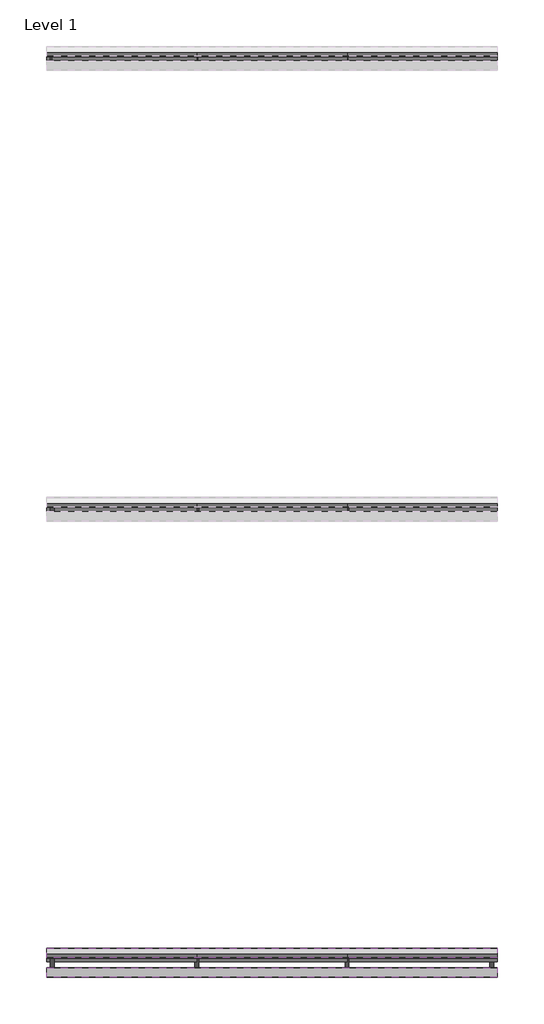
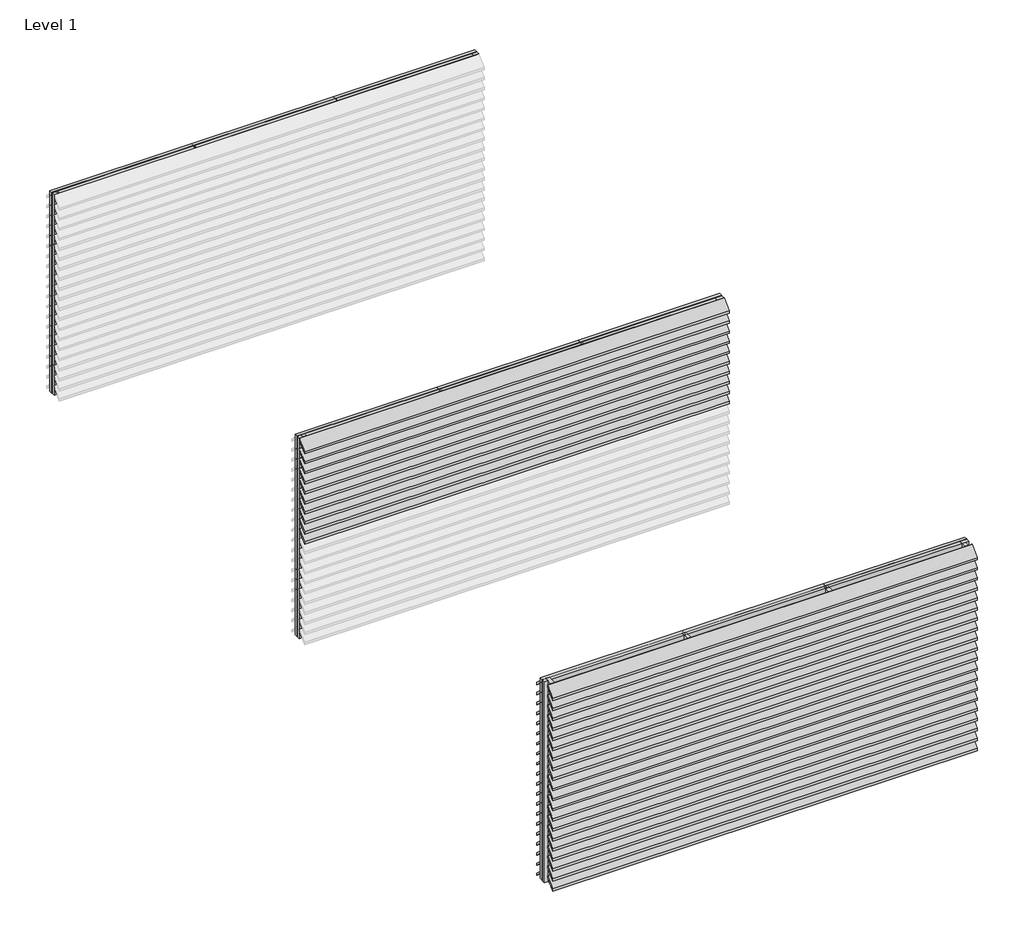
# One storey, part 1 of 2: 50 proxies, 12 members, 12 plates.
"""IFC4 building model written with IfcOpenShell, lengths in millimetres."""

from ifc_helpers import new_model, si_unit, frame, origin, origin_with_axes, place, context, project, spatial, polyline, outline, extrude, transform, mapped, element, save
from components import rectangular_mullion_81aaf6fe, rectangular_mullion_6e08dc26, rectangular_mullion_75c52e10, rectangular_mullion_40295cf1, rectangular_mullion_66519e13, rectangular_mullion_5829b51c, rectangular_mullion_16d87653, rectangular_mullion_6cfc0fe8, rectangular_mullion_5af3f62c, empty_system_panel_empty_24b1c33f

model = new_model("IFC4")

# Units and contexts
model_context = context("Model", 3, world=origin())
ifc_project = project(units=[si_unit("LENGTHUNIT", "METRE", prefix="MILLI")], contexts=[model_context])

# Site, building, storey
site = spatial("IfcSite", under=ifc_project)
building = spatial("IfcBuilding", under=site)
storey = spatial("IfcBuildingStorey", under=building, Name="Level 1", Elevation=0.0)

# Proxies
placement = place(None, origin())
element("IfcBuildingElementProxy", 1, Name="Wall Sweeps", at=placement, inside=storey, context=model_context, shape_type="SweptSolid", body=[
    extrude(outline(polyline([(-32055.0, 3000.0), (-32053.0, 3000.0), (-32053.0, 2964.84375), (-32183.0, 2845.0), (-32183.0, 2880.0), (-32055.0, 2998.0), (-32055.0, 3000.0)])), frame((0.0, 0.0, 0.0), z_axis=(1.0, 0.0, 0.0), x_axis=(0.0, 1.0, 0.0)), (0.0, 0.0, 1.0), 6000.0),
])
element("IfcBuildingElementProxy", 2, Name="Wall Sweeps", at=placement, inside=storey, context=model_context, shape_type="SweptSolid", body=[
    extrude(outline(polyline([(-32055.0, 2850.0), (-32053.0, 2850.0), (-32053.0, 2814.84375), (-32183.0, 2695.0), (-32183.0, 2730.0), (-32055.0, 2848.0), (-32055.0, 2850.0)])), frame((0.0, 0.0, 0.0), z_axis=(1.0, 0.0, 0.0), x_axis=(0.0, 1.0, 0.0)), (0.0, 0.0, 1.0), 6000.0),
])
element("IfcBuildingElementProxy", 3, Name="Wall Sweeps", at=placement, inside=storey, context=model_context, shape_type="SweptSolid", body=[
    extrude(outline(polyline([(-32055.0, 2700.0), (-32053.0, 2700.0), (-32053.0, 2664.84375), (-32183.0, 2545.0), (-32183.0, 2580.0), (-32055.0, 2698.0), (-32055.0, 2700.0)])), frame((0.0, 0.0, 0.0), z_axis=(1.0, 0.0, 0.0), x_axis=(0.0, 1.0, 0.0)), (0.0, 0.0, 1.0), 6000.0),
])
element("IfcBuildingElementProxy", 4, Name="Wall Sweeps", at=placement, inside=storey, context=model_context, shape_type="SweptSolid", body=[
    extrude(outline(polyline([(-32055.0, 2550.0), (-32053.0, 2550.0), (-32053.0, 2514.84375), (-32183.0, 2395.0), (-32183.0, 2430.0), (-32055.0, 2548.0), (-32055.0, 2550.0)])), frame((0.0, 0.0, 0.0), z_axis=(1.0, 0.0, 0.0), x_axis=(0.0, 1.0, 0.0)), (0.0, 0.0, 1.0), 6000.0),
])
element("IfcBuildingElementProxy", 5, Name="Wall Sweeps", at=placement, inside=storey, context=model_context, shape_type="SweptSolid", body=[
    extrude(outline(polyline([(-32055.0, 2400.0), (-32053.0, 2400.0), (-32053.0, 2364.84375), (-32183.0, 2245.0), (-32183.0, 2280.0), (-32055.0, 2398.0), (-32055.0, 2400.0)])), frame((0.0, 0.0, 0.0), z_axis=(1.0, 0.0, 0.0), x_axis=(0.0, 1.0, 0.0)), (0.0, 0.0, 1.0), 6000.0),
])
element("IfcBuildingElementProxy", 6, Name="Wall Sweeps", at=placement, inside=storey, context=model_context, shape_type="SweptSolid", body=[
    extrude(outline(polyline([(-32055.0, 2250.0), (-32053.0, 2250.0), (-32053.0, 2214.84375), (-32183.0, 2095.0), (-32183.0, 2130.0), (-32055.0, 2248.0), (-32055.0, 2250.0)])), frame((0.0, 0.0, 0.0), z_axis=(1.0, 0.0, 0.0), x_axis=(0.0, 1.0, 0.0)), (0.0, 0.0, 1.0), 6000.0),
])
element("IfcBuildingElementProxy", 7, Name="Wall Sweeps", at=placement, inside=storey, context=model_context, shape_type="SweptSolid", body=[
    extrude(outline(polyline([(-32055.0, 2100.0), (-32053.0, 2100.0), (-32053.0, 2064.84375), (-32183.0, 1945.0), (-32183.0, 1980.0), (-32055.0, 2098.0), (-32055.0, 2100.0)])), frame((0.0, 0.0, 0.0), z_axis=(1.0, 0.0, 0.0), x_axis=(0.0, 1.0, 0.0)), (0.0, 0.0, 1.0), 6000.0),
])
element("IfcBuildingElementProxy", 8, Name="Wall Sweeps", at=placement, inside=storey, context=model_context, shape_type="SweptSolid", body=[
    extrude(outline(polyline([(-32055.0, 1950.0), (-32053.0, 1950.0), (-32053.0, 1914.84375), (-32183.0, 1795.0), (-32183.0, 1830.0), (-32055.0, 1948.0), (-32055.0, 1950.0)])), frame((0.0, 0.0, 0.0), z_axis=(1.0, 0.0, 0.0), x_axis=(0.0, 1.0, 0.0)), (0.0, 0.0, 1.0), 6000.0),
])
element("IfcBuildingElementProxy", 9, Name="Wall Sweeps", at=placement, inside=storey, context=model_context, shape_type="SweptSolid", body=[
    extrude(outline(polyline([(-32055.0, 1800.0), (-32053.0, 1800.0), (-32053.0, 1764.84375), (-32183.0, 1645.0), (-32183.0, 1680.0), (-32055.0, 1798.0), (-32055.0, 1800.0)])), frame((0.0, 0.0, 0.0), z_axis=(1.0, 0.0, 0.0), x_axis=(0.0, 1.0, 0.0)), (0.0, 0.0, 1.0), 6000.0),
])
element("IfcBuildingElementProxy", 10, Name="Wall Sweeps", at=placement, inside=storey, context=model_context, shape_type="SweptSolid", body=[
    extrude(outline(polyline([(-32055.0, 1650.0), (-32053.0, 1650.0), (-32053.0, 1614.84375), (-32183.0, 1495.0), (-32183.0, 1530.0), (-32055.0, 1648.0), (-32055.0, 1650.0)])), frame((0.0, 0.0, 0.0), z_axis=(1.0, 0.0, 0.0), x_axis=(0.0, 1.0, 0.0)), (0.0, 0.0, 1.0), 6000.0),
])
element("IfcBuildingElementProxy", 11, Name="Wall Sweeps", at=placement, inside=storey, context=model_context, shape_type="SweptSolid", body=[
    extrude(outline(polyline([(-37995.0, 3000.0), (-37995.0, 2998.0), (-37867.0, 2880.0), (-37867.0, 2845.0), (-37997.0, 2964.84375), (-37997.0, 3000.0), (-37995.0, 3000.0)])), frame((0.0, 0.0, 0.0), z_axis=(1.0, 0.0, 0.0), x_axis=(0.0, 1.0, 0.0)), (0.0, 0.0, 1.0), 6000.0),
])
element("IfcBuildingElementProxy", 12, Name="Wall Sweeps", at=placement, inside=storey, context=model_context, shape_type="SweptSolid", body=[
    extrude(outline(polyline([(-37995.0, 2850.0), (-37995.0, 2848.0), (-37867.0, 2730.0), (-37867.0, 2695.0), (-37997.0, 2814.84375), (-37997.0, 2850.0), (-37995.0, 2850.0)])), frame((0.0, 0.0, 0.0), z_axis=(1.0, 0.0, 0.0), x_axis=(0.0, 1.0, 0.0)), (0.0, 0.0, 1.0), 6000.0),
])
element("IfcBuildingElementProxy", 13, Name="Wall Sweeps", at=placement, inside=storey, context=model_context, shape_type="SweptSolid", body=[
    extrude(outline(polyline([(-37995.0, 2700.0), (-37995.0, 2698.0), (-37867.0, 2580.0), (-37867.0, 2545.0), (-37997.0, 2664.84375), (-37997.0, 2700.0), (-37995.0, 2700.0)])), frame((0.0, 0.0, 0.0), z_axis=(1.0, 0.0, 0.0), x_axis=(0.0, 1.0, 0.0)), (0.0, 0.0, 1.0), 6000.0),
])
element("IfcBuildingElementProxy", 14, Name="Wall Sweeps", at=placement, inside=storey, context=model_context, shape_type="SweptSolid", body=[
    extrude(outline(polyline([(-37995.0, 2550.0), (-37995.0, 2548.0), (-37867.0, 2430.0), (-37867.0, 2395.0), (-37997.0, 2514.84375), (-37997.0, 2550.0), (-37995.0, 2550.0)])), frame((0.0, 0.0, 0.0), z_axis=(1.0, 0.0, 0.0), x_axis=(0.0, 1.0, 0.0)), (0.0, 0.0, 1.0), 6000.0),
])
element("IfcBuildingElementProxy", 15, Name="Wall Sweeps", at=placement, inside=storey, context=model_context, shape_type="SweptSolid", body=[
    extrude(outline(polyline([(-37995.0, 2400.0), (-37995.0, 2398.0), (-37867.0, 2280.0), (-37867.0, 2245.0), (-37997.0, 2364.84375), (-37997.0, 2400.0), (-37995.0, 2400.0)])), frame((0.0, 0.0, 0.0), z_axis=(1.0, 0.0, 0.0), x_axis=(0.0, 1.0, 0.0)), (0.0, 0.0, 1.0), 6000.0),
])
element("IfcBuildingElementProxy", 16, Name="Wall Sweeps", at=placement, inside=storey, context=model_context, shape_type="SweptSolid", body=[
    extrude(outline(polyline([(-37995.0, 2250.0), (-37995.0, 2248.0), (-37867.0, 2130.0), (-37867.0, 2095.0), (-37997.0, 2214.84375), (-37997.0, 2250.0), (-37995.0, 2250.0)])), frame((0.0, 0.0, 0.0), z_axis=(1.0, 0.0, 0.0), x_axis=(0.0, 1.0, 0.0)), (0.0, 0.0, 1.0), 6000.0),
])
element("IfcBuildingElementProxy", 17, Name="Wall Sweeps", at=placement, inside=storey, context=model_context, shape_type="SweptSolid", body=[
    extrude(outline(polyline([(-37995.0, 2100.0), (-37995.0, 2098.0), (-37867.0, 1980.0), (-37867.0, 1945.0), (-37997.0, 2064.84375), (-37997.0, 2100.0), (-37995.0, 2100.0)])), frame((0.0, 0.0, 0.0), z_axis=(1.0, 0.0, 0.0), x_axis=(0.0, 1.0, 0.0)), (0.0, 0.0, 1.0), 6000.0),
])
element("IfcBuildingElementProxy", 18, Name="Wall Sweeps", at=placement, inside=storey, context=model_context, shape_type="SweptSolid", body=[
    extrude(outline(polyline([(-37995.0, 1950.0), (-37995.0, 1948.0), (-37867.0, 1830.0), (-37867.0, 1795.0), (-37997.0, 1914.84375), (-37997.0, 1950.0), (-37995.0, 1950.0)])), frame((0.0, 0.0, 0.0), z_axis=(1.0, 0.0, 0.0), x_axis=(0.0, 1.0, 0.0)), (0.0, 0.0, 1.0), 6000.0),
])
element("IfcBuildingElementProxy", 19, Name="Wall Sweeps", at=placement, inside=storey, context=model_context, shape_type="SweptSolid", body=[
    extrude(outline(polyline([(-37995.0, 1800.0), (-37995.0, 1798.0), (-37867.0, 1680.0), (-37867.0, 1645.0), (-37997.0, 1764.84375), (-37997.0, 1800.0), (-37995.0, 1800.0)])), frame((0.0, 0.0, 0.0), z_axis=(1.0, 0.0, 0.0), x_axis=(0.0, 1.0, 0.0)), (0.0, 0.0, 1.0), 6000.0),
])
element("IfcBuildingElementProxy", 20, Name="Wall Sweeps", at=placement, inside=storey, context=model_context, shape_type="SweptSolid", body=[
    extrude(outline(polyline([(-37995.0, 1650.0), (-37995.0, 1648.0), (-37867.0, 1530.0), (-37867.0, 1495.0), (-37997.0, 1614.84375), (-37997.0, 1650.0), (-37995.0, 1650.0)])), frame((0.0, 0.0, 0.0), z_axis=(1.0, 0.0, 0.0), x_axis=(0.0, 1.0, 0.0)), (0.0, 0.0, 1.0), 6000.0),
])
element("IfcBuildingElementProxy", 21, Name="Wall Sweeps", at=placement, inside=storey, context=model_context, shape_type="SweptSolid", body=[
    extrude(outline(polyline([(-37995.0, 1500.0), (-37995.0, 1498.0), (-37867.0, 1380.0), (-37867.0, 1345.0), (-37997.0, 1464.84375), (-37997.0, 1500.0), (-37995.0, 1500.0)])), frame((0.0, 0.0, 0.0), z_axis=(1.0, 0.0, 0.0), x_axis=(0.0, 1.0, 0.0)), (0.0, 0.0, 1.0), 6000.0),
])
element("IfcBuildingElementProxy", 22, Name="Wall Sweeps", at=placement, inside=storey, context=model_context, shape_type="SweptSolid", body=[
    extrude(outline(polyline([(-37995.0, 1350.0), (-37995.0, 1348.0), (-37867.0, 1230.0), (-37867.0, 1195.0), (-37997.0, 1314.84375), (-37997.0, 1350.0), (-37995.0, 1350.0)])), frame((0.0, 0.0, 0.0), z_axis=(1.0, 0.0, 0.0), x_axis=(0.0, 1.0, 0.0)), (0.0, 0.0, 1.0), 6000.0),
])
element("IfcBuildingElementProxy", 23, Name="Wall Sweeps", at=placement, inside=storey, context=model_context, shape_type="SweptSolid", body=[
    extrude(outline(polyline([(-37995.0, 1200.0), (-37995.0, 1198.0), (-37867.0, 1080.0), (-37867.0, 1045.0), (-37997.0, 1164.84375), (-37997.0, 1200.0), (-37995.0, 1200.0)])), frame((0.0, 0.0, 0.0), z_axis=(1.0, 0.0, 0.0), x_axis=(0.0, 1.0, 0.0)), (0.0, 0.0, 1.0), 6000.0),
])
element("IfcBuildingElementProxy", 24, Name="Wall Sweeps", at=placement, inside=storey, context=model_context, shape_type="SweptSolid", body=[
    extrude(outline(polyline([(-37995.0, 1050.0), (-37995.0, 1048.0), (-37867.0, 930.0), (-37867.0, 895.0), (-37997.0, 1014.84375), (-37997.0, 1050.0), (-37995.0, 1050.0)])), frame((0.0, 0.0, 0.0), z_axis=(1.0, 0.0, 0.0), x_axis=(0.0, 1.0, 0.0)), (0.0, 0.0, 1.0), 6000.0),
])
element("IfcBuildingElementProxy", 25, Name="Wall Sweeps", at=placement, inside=storey, context=model_context, shape_type="SweptSolid", body=[
    extrude(outline(polyline([(-37995.0, 900.0), (-37995.0, 898.0), (-37867.0, 780.0), (-37867.0, 745.0), (-37997.0, 864.84375), (-37997.0, 900.0), (-37995.0, 900.0)])), frame((0.0, 0.0, 0.0), z_axis=(1.0, 0.0, 0.0), x_axis=(0.0, 1.0, 0.0)), (0.0, 0.0, 1.0), 6000.0),
])
element("IfcBuildingElementProxy", 26, Name="Wall Sweeps", at=placement, inside=storey, context=model_context, shape_type="SweptSolid", body=[
    extrude(outline(polyline([(-37995.0, 750.0), (-37995.0, 748.0), (-37867.0, 630.0), (-37867.0, 595.0), (-37997.0, 714.84375), (-37997.0, 750.0), (-37995.0, 750.0)])), frame((0.0, 0.0, 0.0), z_axis=(1.0, 0.0, 0.0), x_axis=(0.0, 1.0, 0.0)), (0.0, 0.0, 1.0), 6000.0),
])
element("IfcBuildingElementProxy", 27, Name="Wall Sweeps", at=placement, inside=storey, context=model_context, shape_type="SweptSolid", body=[
    extrude(outline(polyline([(-37995.0, 600.0), (-37995.0, 598.0), (-37867.0, 480.0), (-37867.0, 445.0), (-37997.0, 564.84375), (-37997.0, 600.0), (-37995.0, 600.0)])), frame((0.0, 0.0, 0.0), z_axis=(1.0, 0.0, 0.0), x_axis=(0.0, 1.0, 0.0)), (0.0, 0.0, 1.0), 6000.0),
])
element("IfcBuildingElementProxy", 28, Name="Wall Sweeps", at=placement, inside=storey, context=model_context, shape_type="SweptSolid", body=[
    extrude(outline(polyline([(-37995.0, 450.0), (-37995.0, 448.0), (-37867.0, 330.0), (-37867.0, 295.0), (-37997.0, 414.84375), (-37997.0, 450.0), (-37995.0, 450.0)])), frame((0.0, 0.0, 0.0), z_axis=(1.0, 0.0, 0.0), x_axis=(0.0, 1.0, 0.0)), (0.0, 0.0, 1.0), 6000.0),
])
element("IfcBuildingElementProxy", 29, Name="Wall Sweeps", at=placement, inside=storey, context=model_context, shape_type="SweptSolid", body=[
    extrude(outline(polyline([(-37995.0, 300.0), (-37995.0, 298.0), (-37867.0, 180.0), (-37867.0, 145.0), (-37997.0, 264.84375), (-37997.0, 300.0), (-37995.0, 300.0)])), frame((0.0, 0.0, 0.0), z_axis=(1.0, 0.0, 0.0), x_axis=(0.0, 1.0, 0.0)), (0.0, 0.0, 1.0), 6000.0),
])
element("IfcBuildingElementProxy", 30, Name="Wall Sweeps", at=placement, inside=storey, context=model_context, shape_type="SweptSolid", body=[
    extrude(outline(polyline([(-37995.0, 150.0), (-37995.0, 148.0), (-37867.0, 30.0), (-37867.0, -5.0), (-37997.0, 114.84375), (-37997.0, 150.0), (-37995.0, 150.0)])), frame((0.0, 0.0, 0.0), z_axis=(1.0, 0.0, 0.0), x_axis=(0.0, 1.0, 0.0)), (0.0, 0.0, 1.0), 6000.0),
])
element("IfcBuildingElementProxy", 31, Name="Wall Sweeps", at=placement, inside=storey, context=model_context, shape_type="SweptSolid", body=[
    extrude(outline(polyline([(-38130.0, 3000.0), (-38128.0, 3000.0), (-38128.0, 2964.84375), (-38258.0, 2845.0), (-38258.0, 2880.0), (-38130.0, 2998.0), (-38130.0, 3000.0)])), frame((0.0, 0.0, 0.0), z_axis=(1.0, 0.0, 0.0), x_axis=(0.0, 1.0, 0.0)), (0.0, 0.0, 1.0), 6000.0),
])
element("IfcBuildingElementProxy", 32, Name="Wall Sweeps", at=placement, inside=storey, context=model_context, shape_type="SweptSolid", body=[
    extrude(outline(polyline([(-38130.0, 2850.0), (-38128.0, 2850.0), (-38128.0, 2814.84375), (-38258.0, 2695.0), (-38258.0, 2730.0), (-38130.0, 2848.0), (-38130.0, 2850.0)])), frame((0.0, 0.0, 0.0), z_axis=(1.0, 0.0, 0.0), x_axis=(0.0, 1.0, 0.0)), (0.0, 0.0, 1.0), 6000.0),
])
element("IfcBuildingElementProxy", 33, Name="Wall Sweeps", at=placement, inside=storey, context=model_context, shape_type="SweptSolid", body=[
    extrude(outline(polyline([(-38130.0, 2700.0), (-38128.0, 2700.0), (-38128.0, 2664.84375), (-38258.0, 2545.0), (-38258.0, 2580.0), (-38130.0, 2698.0), (-38130.0, 2700.0)])), frame((0.0, 0.0, 0.0), z_axis=(1.0, 0.0, 0.0), x_axis=(0.0, 1.0, 0.0)), (0.0, 0.0, 1.0), 6000.0),
])
element("IfcBuildingElementProxy", 34, Name="Wall Sweeps", at=placement, inside=storey, context=model_context, shape_type="SweptSolid", body=[
    extrude(outline(polyline([(-38130.0, 2550.0), (-38128.0, 2550.0), (-38128.0, 2514.84375), (-38258.0, 2395.0), (-38258.0, 2430.0), (-38130.0, 2548.0), (-38130.0, 2550.0)])), frame((0.0, 0.0, 0.0), z_axis=(1.0, 0.0, 0.0), x_axis=(0.0, 1.0, 0.0)), (0.0, 0.0, 1.0), 6000.0),
])
element("IfcBuildingElementProxy", 35, Name="Wall Sweeps", at=placement, inside=storey, context=model_context, shape_type="SweptSolid", body=[
    extrude(outline(polyline([(-38130.0, 2400.0), (-38128.0, 2400.0), (-38128.0, 2364.84375), (-38258.0, 2245.0), (-38258.0, 2280.0), (-38130.0, 2398.0), (-38130.0, 2400.0)])), frame((0.0, 0.0, 0.0), z_axis=(1.0, 0.0, 0.0), x_axis=(0.0, 1.0, 0.0)), (0.0, 0.0, 1.0), 6000.0),
])
element("IfcBuildingElementProxy", 36, Name="Wall Sweeps", at=placement, inside=storey, context=model_context, shape_type="SweptSolid", body=[
    extrude(outline(polyline([(-38130.0, 2250.0), (-38128.0, 2250.0), (-38128.0, 2214.84375), (-38258.0, 2095.0), (-38258.0, 2130.0), (-38130.0, 2248.0), (-38130.0, 2250.0)])), frame((0.0, 0.0, 0.0), z_axis=(1.0, 0.0, 0.0), x_axis=(0.0, 1.0, 0.0)), (0.0, 0.0, 1.0), 6000.0),
])
element("IfcBuildingElementProxy", 37, Name="Wall Sweeps", at=placement, inside=storey, context=model_context, shape_type="SweptSolid", body=[
    extrude(outline(polyline([(-38130.0, 2100.0), (-38128.0, 2100.0), (-38128.0, 2064.84375), (-38258.0, 1945.0), (-38258.0, 1980.0), (-38130.0, 2098.0), (-38130.0, 2100.0)])), frame((0.0, 0.0, 0.0), z_axis=(1.0, 0.0, 0.0), x_axis=(0.0, 1.0, 0.0)), (0.0, 0.0, 1.0), 6000.0),
])
element("IfcBuildingElementProxy", 38, Name="Wall Sweeps", at=placement, inside=storey, context=model_context, shape_type="SweptSolid", body=[
    extrude(outline(polyline([(-38130.0, 1950.0), (-38128.0, 1950.0), (-38128.0, 1914.84375), (-38258.0, 1795.0), (-38258.0, 1830.0), (-38130.0, 1948.0), (-38130.0, 1950.0)])), frame((0.0, 0.0, 0.0), z_axis=(1.0, 0.0, 0.0), x_axis=(0.0, 1.0, 0.0)), (0.0, 0.0, 1.0), 6000.0),
])
element("IfcBuildingElementProxy", 39, Name="Wall Sweeps", at=placement, inside=storey, context=model_context, shape_type="SweptSolid", body=[
    extrude(outline(polyline([(-38130.0, 1800.0), (-38128.0, 1800.0), (-38128.0, 1764.84375), (-38258.0, 1645.0), (-38258.0, 1680.0), (-38130.0, 1798.0), (-38130.0, 1800.0)])), frame((0.0, 0.0, 0.0), z_axis=(1.0, 0.0, 0.0), x_axis=(0.0, 1.0, 0.0)), (0.0, 0.0, 1.0), 6000.0),
])
element("IfcBuildingElementProxy", 40, Name="Wall Sweeps", at=placement, inside=storey, context=model_context, shape_type="SweptSolid", body=[
    extrude(outline(polyline([(-38130.0, 1650.0), (-38128.0, 1650.0), (-38128.0, 1614.84375), (-38258.0, 1495.0), (-38258.0, 1530.0), (-38130.0, 1648.0), (-38130.0, 1650.0)])), frame((0.0, 0.0, 0.0), z_axis=(1.0, 0.0, 0.0), x_axis=(0.0, 1.0, 0.0)), (0.0, 0.0, 1.0), 6000.0),
])
element("IfcBuildingElementProxy", 41, Name="Wall Sweeps", at=placement, inside=storey, context=model_context, shape_type="SweptSolid", body=[
    extrude(outline(polyline([(-38130.0, 1500.0), (-38128.0, 1500.0), (-38128.0, 1464.84375), (-38258.0, 1345.0), (-38258.0, 1380.0), (-38130.0, 1498.0), (-38130.0, 1500.0)])), frame((0.0, 0.0, 0.0), z_axis=(1.0, 0.0, 0.0), x_axis=(0.0, 1.0, 0.0)), (0.0, 0.0, 1.0), 6000.0),
])
element("IfcBuildingElementProxy", 42, Name="Wall Sweeps", at=placement, inside=storey, context=model_context, shape_type="SweptSolid", body=[
    extrude(outline(polyline([(-38130.0, 1350.0), (-38128.0, 1350.0), (-38128.0, 1314.84375), (-38258.0, 1195.0), (-38258.0, 1230.0), (-38130.0, 1348.0), (-38130.0, 1350.0)])), frame((0.0, 0.0, 0.0), z_axis=(1.0, 0.0, 0.0), x_axis=(0.0, 1.0, 0.0)), (0.0, 0.0, 1.0), 6000.0),
])
element("IfcBuildingElementProxy", 43, Name="Wall Sweeps", at=placement, inside=storey, context=model_context, shape_type="SweptSolid", body=[
    extrude(outline(polyline([(-38130.0, 1200.0), (-38128.0, 1200.0), (-38128.0, 1164.84375), (-38258.0, 1045.0), (-38258.0, 1080.0), (-38130.0, 1198.0), (-38130.0, 1200.0)])), frame((0.0, 0.0, 0.0), z_axis=(1.0, 0.0, 0.0), x_axis=(0.0, 1.0, 0.0)), (0.0, 0.0, 1.0), 6000.0),
])
element("IfcBuildingElementProxy", 44, Name="Wall Sweeps", at=placement, inside=storey, context=model_context, shape_type="SweptSolid", body=[
    extrude(outline(polyline([(-38130.0, 1050.0), (-38128.0, 1050.0), (-38128.0, 1014.84375), (-38258.0, 895.0), (-38258.0, 930.0), (-38130.0, 1048.0), (-38130.0, 1050.0)])), frame((0.0, 0.0, 0.0), z_axis=(1.0, 0.0, 0.0), x_axis=(0.0, 1.0, 0.0)), (0.0, 0.0, 1.0), 6000.0),
])
element("IfcBuildingElementProxy", 45, Name="Wall Sweeps", at=placement, inside=storey, context=model_context, shape_type="SweptSolid", body=[
    extrude(outline(polyline([(-38130.0, 900.0), (-38128.0, 900.0), (-38128.0, 864.84375), (-38258.0, 745.0), (-38258.0, 780.0), (-38130.0, 898.0), (-38130.0, 900.0)])), frame((0.0, 0.0, 0.0), z_axis=(1.0, 0.0, 0.0), x_axis=(0.0, 1.0, 0.0)), (0.0, 0.0, 1.0), 6000.0),
])
element("IfcBuildingElementProxy", 46, Name="Wall Sweeps", at=placement, inside=storey, context=model_context, shape_type="SweptSolid", body=[
    extrude(outline(polyline([(-38130.0, 750.0), (-38128.0, 750.0), (-38128.0, 714.84375), (-38258.0, 595.0), (-38258.0, 630.0), (-38130.0, 748.0), (-38130.0, 750.0)])), frame((0.0, 0.0, 0.0), z_axis=(1.0, 0.0, 0.0), x_axis=(0.0, 1.0, 0.0)), (0.0, 0.0, 1.0), 6000.0),
])
element("IfcBuildingElementProxy", 47, Name="Wall Sweeps", at=placement, inside=storey, context=model_context, shape_type="SweptSolid", body=[
    extrude(outline(polyline([(-38130.0, 600.0), (-38128.0, 600.0), (-38128.0, 564.84375), (-38258.0, 445.0), (-38258.0, 480.0), (-38130.0, 598.0), (-38130.0, 600.0)])), frame((0.0, 0.0, 0.0), z_axis=(1.0, 0.0, 0.0), x_axis=(0.0, 1.0, 0.0)), (0.0, 0.0, 1.0), 6000.0),
])
element("IfcBuildingElementProxy", 48, Name="Wall Sweeps", at=placement, inside=storey, context=model_context, shape_type="SweptSolid", body=[
    extrude(outline(polyline([(-38130.0, 450.0), (-38128.0, 450.0), (-38128.0, 414.84375), (-38258.0, 295.0), (-38258.0, 330.0), (-38130.0, 448.0), (-38130.0, 450.0)])), frame((0.0, 0.0, 0.0), z_axis=(1.0, 0.0, 0.0), x_axis=(0.0, 1.0, 0.0)), (0.0, 0.0, 1.0), 6000.0),
])
element("IfcBuildingElementProxy", 49, Name="Wall Sweeps", at=placement, inside=storey, context=model_context, shape_type="SweptSolid", body=[
    extrude(outline(polyline([(-38130.0, 300.0), (-38128.0, 300.0), (-38128.0, 264.84375), (-38258.0, 145.0), (-38258.0, 180.0), (-38130.0, 298.0), (-38130.0, 300.0)])), frame((0.0, 0.0, 0.0), z_axis=(1.0, 0.0, 0.0), x_axis=(0.0, 1.0, 0.0)), (0.0, 0.0, 1.0), 6000.0),
])
element("IfcBuildingElementProxy", 50, Name="Wall Sweeps", at=placement, inside=storey, context=model_context, shape_type="SweptSolid", body=[
    extrude(outline(polyline([(-38130.0, 150.0), (-38128.0, 150.0), (-38128.0, 114.84375), (-38258.0, -5.0), (-38258.0, 30.0), (-38130.0, 148.0), (-38130.0, 150.0)])), frame((0.0, 0.0, 0.0), z_axis=(1.0, 0.0, 0.0), x_axis=(0.0, 1.0, 0.0)), (0.0, 0.0, 1.0), 6000.0),
])

# Members
rectangular_mullion_shape = rectangular_mullion_81aaf6fe(model_context)
element("IfcMember", 51, ObjectType="Rectangular Mullion : RSen_21_CWM_support profile - 21x50 Multi - left_gen_duco projects", at=placement, inside=storey, context=model_context, shape_type="MappedRepresentation", body=[
    mapped(rectangular_mullion_shape, transform((0.0, -26000.0, 0.0), x_axis=(-1.0, 0.0, 0.0), y_axis=(0.0, 1.0, 0.0), z_axis=(0.0, 0.0, -1.0))),
])
rectangular_mullion_2_shape = rectangular_mullion_6e08dc26(model_context)
element("IfcMember", 52, ObjectType="Rectangular Mullion : RSen_21_CWM_support profile - 21x50 Multi - right_gen_duco projects", at=placement, inside=storey, context=model_context, shape_type="MappedRepresentation", body=[
    mapped(rectangular_mullion_2_shape, transform((6000.0, -26000.0, 3000.0), x_axis=(1.0, 0.0, 0.0), y_axis=(0.0, 1.0, 0.0), z_axis=(0.0, 0.0, 1.0))),
])
rectangular_mullion_3_shape = rectangular_mullion_75c52e10(model_context)
element("IfcMember", 53, ObjectType="Rectangular Mullion : RSen_21_CWM_support profile - 50x50 - left_gen_duco projects", at=placement, inside=storey, context=model_context, shape_type="MappedRepresentation", body=[
    mapped(rectangular_mullion_3_shape, transform((0.0, -32000.0, 0.0), x_axis=(-1.0, 0.0, 0.0), y_axis=(0.0, 1.0, 0.0), z_axis=(0.0, 0.0, -1.0))),
])
rectangular_mullion_4_shape = rectangular_mullion_40295cf1(model_context)
element("IfcMember", 54, ObjectType="Rectangular Mullion : RSen_21_CWM_support profile - 50x50 - right_gen_duco projects", at=placement, inside=storey, context=model_context, shape_type="MappedRepresentation", body=[
    mapped(rectangular_mullion_4_shape, transform((6000.0, -32000.0, 3000.0), x_axis=(1.0, 0.0, 0.0), y_axis=(0.0, 1.0, 0.0), z_axis=(0.0, 0.0, 1.0))),
])
rectangular_mullion_5_shape = rectangular_mullion_66519e13(model_context)
element("IfcMember", 55, ObjectType="Rectangular Mullion : RSen_21_CWM_support profile - 21x50 Multi_gen_duco projects", at=placement, inside=storey, context=model_context, shape_type="MappedRepresentation", body=[
    mapped(rectangular_mullion_5_shape, transform((4000.0, -26000.0, 0.0), x_axis=(-1.0, 0.0, 0.0), y_axis=(0.0, 1.0, 0.0), z_axis=(0.0, 0.0, -1.0))),
])
element("IfcMember", 56, ObjectType="Rectangular Mullion : RSen_21_CWM_support profile - 21x50 Multi_gen_duco projects", at=placement, inside=storey, context=model_context, shape_type="MappedRepresentation", body=[
    mapped(rectangular_mullion_5_shape, transform((2000.0, -26000.0, 0.0), x_axis=(-1.0, 0.0, 0.0), y_axis=(0.0, 1.0, 0.0), z_axis=(0.0, 0.0, -1.0))),
])
rectangular_mullion_6_shape = rectangular_mullion_5829b51c(model_context)
element("IfcMember", 57, ObjectType="Rectangular Mullion : RSen_21_CWM_support profile - 50x50_gen_duco projects", at=placement, inside=storey, context=model_context, shape_type="MappedRepresentation", body=[
    mapped(rectangular_mullion_6_shape, transform((4000.0, -32000.0, 0.0), x_axis=(-1.0, 0.0, 0.0), y_axis=(0.0, 1.0, 0.0), z_axis=(0.0, 0.0, -1.0))),
])
element("IfcMember", 58, ObjectType="Rectangular Mullion : RSen_21_CWM_support profile - 50x50_gen_duco projects", at=placement, inside=storey, context=model_context, shape_type="MappedRepresentation", body=[
    mapped(rectangular_mullion_6_shape, transform((2000.0, -32000.0, 0.0), x_axis=(-1.0, 0.0, 0.0), y_axis=(0.0, 1.0, 0.0), z_axis=(0.0, 0.0, -1.0))),
])
rectangular_mullion_7_shape = rectangular_mullion_16d87653(model_context)
element("IfcMember", 59, ObjectType="Rectangular Mullion : RSen_21_CWM_support profile - 50x125_gen_duco projects", at=placement, inside=storey, context=model_context, shape_type="MappedRepresentation", body=[
    mapped(rectangular_mullion_7_shape, transform((4000.0, -38000.0, 0.0), x_axis=(-1.0, 0.0, 0.0), y_axis=(0.0, 1.0, 0.0), z_axis=(0.0, 0.0, -1.0))),
])
element("IfcMember", 60, ObjectType="Rectangular Mullion : RSen_21_CWM_support profile - 50x125_gen_duco projects", at=placement, inside=storey, context=model_context, shape_type="MappedRepresentation", body=[
    mapped(rectangular_mullion_7_shape, transform((2000.0, -38000.0, 0.0), x_axis=(-1.0, 0.0, 0.0), y_axis=(0.0, 1.0, 0.0), z_axis=(0.0, 0.0, -1.0))),
])
rectangular_mullion_8_shape = rectangular_mullion_6cfc0fe8(model_context)
element("IfcMember", 61, ObjectType="Rectangular Mullion : RSen_21_CWM_support profile - 50x125 - left_gen_duco projects", at=placement, inside=storey, context=model_context, shape_type="MappedRepresentation", body=[
    mapped(rectangular_mullion_8_shape, transform((0.0, -38000.0, 0.0), x_axis=(-1.0, 0.0, 0.0), y_axis=(0.0, 1.0, 0.0), z_axis=(0.0, 0.0, -1.0))),
])
rectangular_mullion_9_shape = rectangular_mullion_5af3f62c(model_context)
element("IfcMember", 62, ObjectType="Rectangular Mullion : RSen_21_CWM_support profile - 50x125 - right_gen_duco projects", at=placement, inside=storey, context=model_context, shape_type="MappedRepresentation", body=[
    mapped(rectangular_mullion_9_shape, transform((6000.0, -38000.0, 3000.0), x_axis=(1.0, 0.0, 0.0), y_axis=(0.0, 1.0, 0.0), z_axis=(0.0, 0.0, 1.0))),
])

# Plates
element("IfcPlate", 63, ObjectType="RSen_21_WA_louvre blade acoustic W 300_gen_duco projects_width 334mm", at=placement, inside=storey, context=model_context, shape_type="SweptSolid", body=[
    extrude(outline(polyline([(0.0, -25999.0), (6000.0, -25999.0), (6000.0, -26001.0), (0.0, -26001.0), (0.0, -25999.0)])), origin_with_axes(), (0.0, 0.0, 1.0), 3000.0),
])
element("IfcPlate", 64, ObjectType="RSen_21_WA_louvre blade acoustic W 300_gen_duco projects_width 334mm", at=placement, inside=storey, context=model_context, shape_type="SweptSolid", body=[
    extrude(outline(polyline([(0.0, -31999.0), (6000.0, -31999.0), (6000.0, -32001.0), (0.0, -32001.0), (0.0, -31999.0)])), origin_with_axes(), (0.0, 0.0, 1.0), 3000.0),
])
element("IfcPlate", 65, ObjectType="RSen_21_WA_louvre blade acoustic W 300_gen_duco projects_width 409mm", at=placement, inside=storey, context=model_context, shape_type="SweptSolid", body=[
    extrude(outline(polyline([(0.0, -37999.0), (6000.0, -37999.0), (6000.0, -38001.0), (0.0, -38001.0), (0.0, -37999.0)])), origin_with_axes(), (0.0, 0.0, 1.0), 3000.0),
])
empty_system_panel_empty_shape = empty_system_panel_empty_24b1c33f(model_context)
element("IfcPlate", 66, ObjectType="Empty System Panel : Empty", at=placement, inside=storey, context=model_context, shape_type="MappedRepresentation", body=[
    mapped(empty_system_panel_empty_shape, transform((5000.0, -26000.0, 0.0), x_axis=(-1.0, 0.0, 0.0), y_axis=(0.0, -1.0, 0.0), z_axis=(0.0, 0.0, 1.0))),
])
element("IfcPlate", 67, ObjectType="Empty System Panel : Empty", at=placement, inside=storey, context=model_context, shape_type="MappedRepresentation", body=[
    mapped(empty_system_panel_empty_shape, transform((5000.0, -32000.0, 0.0), x_axis=(-1.0, 0.0, 0.0), y_axis=(0.0, -1.0, 0.0), z_axis=(0.0, 0.0, 1.0))),
])
element("IfcPlate", 68, ObjectType="Empty System Panel : Empty", at=placement, inside=storey, context=model_context, shape_type="MappedRepresentation", body=[
    mapped(empty_system_panel_empty_shape, transform((3000.0, -26000.0, 0.0), x_axis=(-1.0, 0.0, 0.0), y_axis=(0.0, -1.0, 0.0), z_axis=(0.0, 0.0, 1.0))),
])
element("IfcPlate", 69, ObjectType="Empty System Panel : Empty", at=placement, inside=storey, context=model_context, shape_type="MappedRepresentation", body=[
    mapped(empty_system_panel_empty_shape, transform((1000.0, -26000.0, 0.0), x_axis=(-1.0, 0.0, 0.0), y_axis=(0.0, -1.0, 0.0), z_axis=(0.0, 0.0, 1.0))),
])
element("IfcPlate", 70, ObjectType="Empty System Panel : Empty", at=placement, inside=storey, context=model_context, shape_type="MappedRepresentation", body=[
    mapped(empty_system_panel_empty_shape, transform((3000.0, -32000.0, 0.0), x_axis=(-1.0, 0.0, 0.0), y_axis=(0.0, -1.0, 0.0), z_axis=(0.0, 0.0, 1.0))),
])
element("IfcPlate", 71, ObjectType="Empty System Panel : Empty", at=placement, inside=storey, context=model_context, shape_type="MappedRepresentation", body=[
    mapped(empty_system_panel_empty_shape, transform((1000.0, -32000.0, 0.0), x_axis=(-1.0, 0.0, 0.0), y_axis=(0.0, -1.0, 0.0), z_axis=(0.0, 0.0, 1.0))),
])
element("IfcPlate", 72, ObjectType="Empty System Panel : Empty", at=placement, inside=storey, context=model_context, shape_type="MappedRepresentation", body=[
    mapped(empty_system_panel_empty_shape, transform((5000.0, -38000.0, 0.0), x_axis=(-1.0, 0.0, 0.0), y_axis=(0.0, -1.0, 0.0), z_axis=(0.0, 0.0, 1.0))),
])
element("IfcPlate", 73, ObjectType="Empty System Panel : Empty", at=placement, inside=storey, context=model_context, shape_type="MappedRepresentation", body=[
    mapped(empty_system_panel_empty_shape, transform((3000.0, -38000.0, 0.0), x_axis=(-1.0, 0.0, 0.0), y_axis=(0.0, -1.0, 0.0), z_axis=(0.0, 0.0, 1.0))),
])
element("IfcPlate", 74, ObjectType="Empty System Panel : Empty", at=placement, inside=storey, context=model_context, shape_type="MappedRepresentation", body=[
    mapped(empty_system_panel_empty_shape, transform((1000.0, -38000.0, 0.0), x_axis=(-1.0, 0.0, 0.0), y_axis=(0.0, -1.0, 0.0), z_axis=(0.0, 0.0, 1.0))),
])

save(model, "model.ifc")
